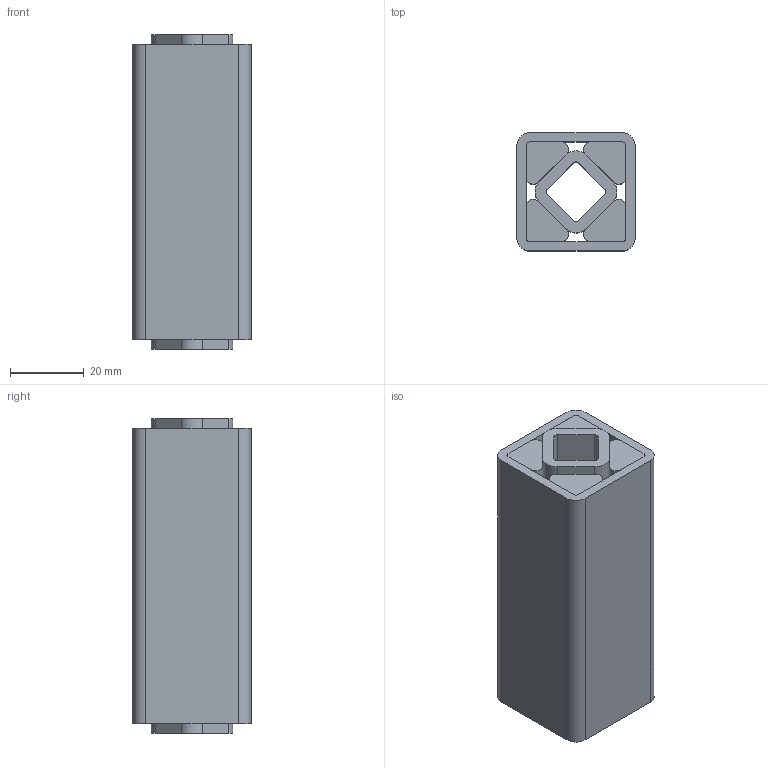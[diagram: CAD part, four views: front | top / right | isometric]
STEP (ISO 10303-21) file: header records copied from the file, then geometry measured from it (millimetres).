
FILE_DESCRIPTION((''),'2;1');
FILE_NAME('D:\ROSTA\Gummifederelemente\3D\DR-S18x80_01021009.stp','2005-02-02T05:00:26',('Administrator'),(''),'Autodesk Inventor 8','Autodesk Inventor 8','');
FILE_SCHEMA(('AUTOMOTIVE_DESIGN { 1 0 10303 214 1 1 1 1 }'));
Length unit declared in the file: millimetre
Products named in the file (4): Baugruppe6; 4.4.3727-009; 4.4.3727-010; 4.4.3727-011
Assembly tree (6 placements, depth 2):
  Baugruppe6
    4.4.3727-009
    4.4.3727-010
    4.4.3727-011  x4
Bounding box: 32 x 32 x 85 mm (x, y, z)
Volume: 66390.6 mm3; surface area: 41662.3 mm2
Topology: 6 solids, 6 shells, 68 faces, 168 edges, 112 vertices
Faces by surface type: plane 40, cylinder 28
Entity records: 1491 total; most frequent: DIRECTION 260, CARTESIAN_POINT 244, ORIENTED_EDGE 228, EDGE_CURVE 114, AXIS2_PLACEMENT_3D 92, VERTEX_POINT 76, VECTOR 76, LINE 76
